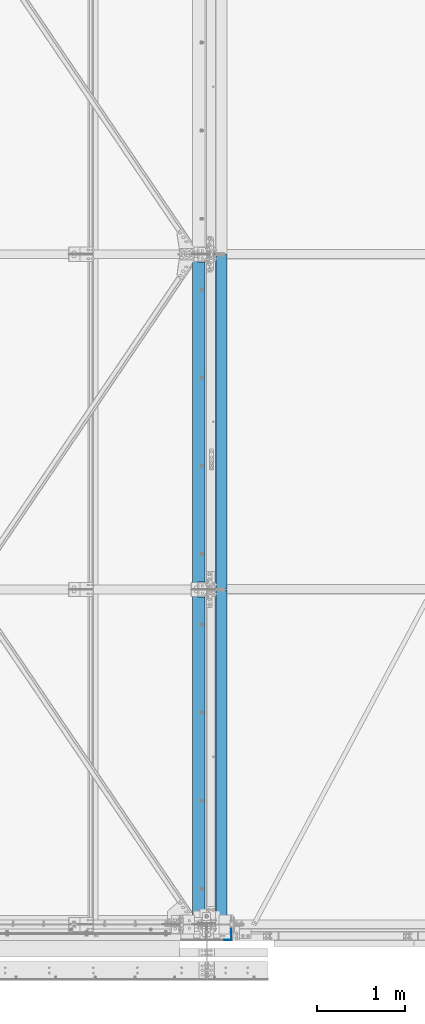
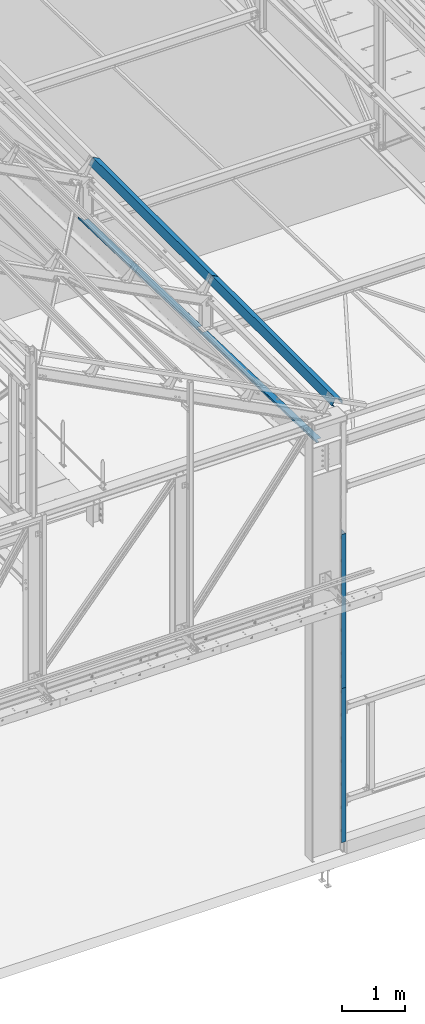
# One storey, part 347 of 362: 6 beams, 6 elements without a shape of their own.
"""IFC2X3 building model written with IfcOpenShell, lengths in millimetres."""

from ifc_helpers import new_model, si_unit, frame, origin_with_axes, place, context, subcontext, project, spatial, faceted_brep, material, type_object, element, aggregate, save


model = new_model("IFC2X3")

# Units and contexts
model_context = context("Model", 3, precision=1e-05, world=origin_with_axes())
body_context = subcontext(model_context, "Body", "Model", "MODEL_VIEW")
ifc_project = project(units=[si_unit("LENGTHUNIT", "METRE", prefix="MILLI"), si_unit("AREAUNIT", "SQUARE_METRE"), si_unit("VOLUMEUNIT", "CUBIC_METRE"), si_unit("MASSUNIT", "GRAM", prefix="KILO"), si_unit("TIMEUNIT", "SECOND"), si_unit("PLANEANGLEUNIT", "RADIAN"), si_unit("SOLIDANGLEUNIT", "STERADIAN"), si_unit("THERMODYNAMICTEMPERATUREUNIT", "DEGREE_CELSIUS"), si_unit("LUMINOUSINTENSITYUNIT", "LUMEN")], contexts=[model_context])

# Site, building, storey
site_placement = place(None, origin_with_axes())
site = spatial("IfcSite", under=ifc_project, at=site_placement, Name="Undefined", CompositionType="ELEMENT")
building_placement = place(site_placement, origin_with_axes())
building = spatial("IfcBuilding", under=site, at=building_placement, Name="Undefined", CompositionType="ELEMENT")
storey_placement = place(building_placement, origin_with_axes())
storey = spatial("IfcBuildingStorey", under=building, at=storey_placement, Name="Undefined", CompositionType="ELEMENT", Elevation=0.0)

# Assembly, beam
assembly_1_placement = place(storey_placement, origin_with_axes())
assembly_1 = element("IfcElementAssembly", 1, at=assembly_1_placement, inside=storey, Name="PANNE SHED", AssemblyPlace="NOTDEFINED", PredefinedType="NOTDEFINED")
ifc_material = material(Name="Undefined/S235-E24")
beam_type_1 = type_object("IfcBeamType", Name="PL3*3790", PredefinedType="NOTDEFINED")
beam_1_placement = place(assembly_1_placement, frame((28966.3687317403, 5700.00024422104, 8772.7482869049), z_axis=(0.0, 1.0, 0.0), x_axis=(-0.887870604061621, -1.29999898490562e-08, 0.460093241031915)))
beam_1 = element("IfcBeam", 2, at=beam_1_placement, type_object=beam_type_1, material=ifc_material, Name="PANNE SHED", ObjectType="PL3*3790", context=body_context, shape_type="Brep", body=[
    faceted_brep([(-3.49427864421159e-08, -1.49999999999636, -1895.0), (-3.52956703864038e-08, -1.5, 1895.0), (3.49573383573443e-08, 1.5, 1895.0), (3.53102223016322e-08, 1.5, -1895.0), (47.0000011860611, 1.49999889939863, 1895.0), (47.0000011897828, 1.49999889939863, -1895.0), (50.0000011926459, -1.50000117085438, -1895.0), (50.0000011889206, -1.50000117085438, 1895.0), (47.0000010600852, 135.50000220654, 1895.00000000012), (47.0000010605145, 135.500002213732, -1894.99999999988), (50.000001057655, 138.500002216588, -1894.99999999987), (50.0000010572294, 138.500002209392, 1895.00000000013), (-88.1757271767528, 135.500002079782, 1895.00000000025), (-88.175727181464, 135.50000208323, -1894.99999999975), (-90.0000023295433, 138.500002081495, -1894.99999999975), (-90.0000023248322, 138.500002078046, 1895.00000000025), (-124.14385012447, 66.0900733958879, 1895.00000000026), (-124.143850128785, 66.0900733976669, -1894.99999999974), (-126.807461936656, 67.4703531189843, 1895.00000000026), (-126.807461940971, 67.4703531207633, -1894.99999999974)], [[[0, 1, 2, 3]], [[3, 2, 4, 5]], [[1, 0, 6, 7]], [[5, 4, 8, 9]], [[7, 6, 10, 11]], [[9, 8, 12, 13]], [[11, 10, 14, 15]], [[13, 12, 16, 17]], [[12, 8, 4, 2, 1, 7, 11, 15, 18, 16]], [[15, 14, 19, 18]], [[14, 10, 6, 0, 3, 5, 9, 13, 17, 19]], [[18, 19, 17, 16]]]),
])
aggregate(assembly_1, [beam_1])

assembly_2_placement = place(storey_placement, origin_with_axes())
assembly_2 = element("IfcElementAssembly", 3, at=assembly_2_placement, inside=storey, AssemblyPlace="NOTDEFINED", PredefinedType="NOTDEFINED")
beam_type_2 = type_object("IfcBeamType", Name="PL5*3000", PredefinedType="NOTDEFINED")
beam_2_placement = place(assembly_2_placement, frame((29080.9999677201, -177.499999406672, 4750.0000156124), z_axis=(0.0, 0.0, 1.0), x_axis=(1.0, 0.0, 0.0)))
beam_2 = element("IfcBeam", 4, at=beam_2_placement, type_object=beam_type_2, material=ifc_material, Name="FEUILLURE", ObjectType="PL5*3000", context=body_context, shape_type="Brep", body=[
    faceted_brep([(80.0000295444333, 127.500000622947, 79.99218047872), (75.0000295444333, 127.500000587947, 79.99218047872), (75.000029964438, 67.4999918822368, 79.99218047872), (80.000029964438, 67.4999919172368, 79.99218047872), (75.000029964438, 67.4999918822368, 149.99218047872), (80.000029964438, 67.4999919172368, 149.99218047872), (80.0000295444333, 127.499991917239, 149.99218047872), (75.0000295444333, 127.500000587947, 149.99218047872), (-1.04046193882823e-09, -2.5, -1500.0), (-1.04046193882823e-09, -2.5, 1500.0), (1.04409991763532e-09, 2.5, 1500.0), (1.04409991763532e-09, 2.5, -1500.0), (75.0000304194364, 2.49999996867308, 1500.0), (75.0000304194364, 2.49999996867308, -1500.0), (80.0000304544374, -2.50000003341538, -1500.0), (75.0000295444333, 127.500000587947, -1500.0), (80.0000295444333, 127.500000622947, -1500.0), (80.0000304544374, -2.50000003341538, 1500.0), (80.0000295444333, 127.500000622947, 1500.0), (75.0000295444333, 127.500000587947, 1500.0)], [[[0, 1, 2, 3]], [[3, 2, 4, 5]], [[6, 5, 4, 7]], [[8, 9, 10, 11]], [[11, 10, 12, 13]], [[14, 8, 11, 13, 15, 16]], [[9, 8, 14, 17]], [[12, 10, 9, 17, 18, 19]], [[19, 18, 6, 7]], [[2, 1, 15, 13, 12, 19, 7, 4]], [[16, 15, 1, 0]], [[18, 17, 14, 16, 0, 3, 5, 6]]]),
])
aggregate(assembly_2, [beam_2])

assembly_3_placement = place(storey_placement, origin_with_axes())
assembly_3 = element("IfcElementAssembly", 5, at=assembly_3_placement, inside=storey, AssemblyPlace="NOTDEFINED", PredefinedType="NOTDEFINED")
beam_3_placement = place(assembly_3_placement, frame((29080.9999686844, -177.499999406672, 1750.00001560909), z_axis=(0.0, 0.0, 1.0), x_axis=(1.0, 0.0, 0.0)))
beam_3 = element("IfcBeam", 6, at=beam_3_placement, type_object=beam_type_2, material=ifc_material, Name="FEUILLURE", ObjectType="PL5*3000", context=body_context, shape_type="Brep", body=[
    faceted_brep([(80.000029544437, 127.500000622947, -820.003917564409), (75.000029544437, 127.500000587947, -820.003917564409), (75.000029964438, 67.5000005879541, -820.003917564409), (80.0000299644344, 67.5000006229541, -820.003917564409), (75.000029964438, 67.5000005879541, -750.003917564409), (80.0000299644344, 67.5000006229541, -750.003917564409), (80.000029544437, 127.500000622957, -750.003917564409), (75.000029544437, 127.500000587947, -750.003917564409), (-1.04046193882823e-09, -2.5, -1500.0), (-1.04046193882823e-09, -2.5, 1500.0), (1.04409991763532e-09, 2.5, 1500.0), (1.04409991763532e-09, 2.5, -1500.0), (75.0000304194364, 2.49999996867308, 1500.0), (75.0000304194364, 2.49999996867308, -1500.0), (80.0000304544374, -2.50000003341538, -1500.0), (75.0000295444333, 127.500000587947, -1500.0), (80.0000295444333, 127.500000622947, -1500.0), (80.0000304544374, -2.50000003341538, 1500.0), (80.0000295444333, 127.500000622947, 1500.0), (75.0000295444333, 127.500000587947, 1500.0), (80.000029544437, 127.500000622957, 1049.99608243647), (75.000029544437, 127.500000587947, 1049.99608243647), (80.0000299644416, 67.5000006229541, 1049.99608243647), (75.0000299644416, 67.5000005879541, 1049.99608243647), (80.0000299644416, 67.5000006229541, 979.996082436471), (75.0000299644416, 67.5000005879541, 979.996082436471), (80.000029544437, 127.500000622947, 979.996082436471), (75.000029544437, 127.500000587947, 979.996082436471)], [[[0, 1, 2, 3]], [[3, 2, 4, 5]], [[6, 5, 4, 7]], [[8, 9, 10, 11]], [[11, 10, 12, 13]], [[14, 8, 11, 13, 15, 16]], [[9, 8, 14, 17]], [[12, 10, 9, 17, 18, 19]], [[19, 18, 20, 21]], [[20, 22, 23, 21]], [[24, 25, 23, 22]], [[26, 27, 25, 24]], [[27, 26, 6, 7]], [[2, 1, 15, 13, 12, 19, 21, 23, 25, 27, 7, 4]], [[16, 15, 1, 0]], [[26, 24, 22, 20, 18, 17, 14, 16, 0, 3, 5, 6]]]),
])
aggregate(assembly_3, [beam_3])

assembly_4_placement = place(storey_placement, origin_with_axes())
assembly_4 = element("IfcElementAssembly", 7, at=assembly_4_placement, inside=storey, Name="POUTRE", AssemblyPlace="NOTDEFINED", PredefinedType="NOTDEFINED")
beam_type_3 = type_object("IfcBeamType", Name="PL2*4000", PredefinedType="NOTDEFINED")
beam_4_placement = place(assembly_4_placement, frame((28859.9999999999, 1899.71695010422, 7991.29997216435), z_axis=(3.14103090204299e-11, 0.999506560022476, -0.0314107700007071), x_axis=(-1.0, 0.0, 0.0)))
beam_4 = element("IfcBeam", 8, at=beam_4_placement, type_object=beam_type_3, material=ifc_material, Name="POUTRE", ObjectType="PL2*4000", context=body_context, shape_type="Brep", body=[
    faceted_brep([(84.9999999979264, 0.999999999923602, 1895.93800542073), (84.9999999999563, 0.999999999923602, 1815.93800543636), (84.9999999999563, -1.00000000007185, 1815.93800543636), (84.9999999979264, -1.00000000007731, 1895.93800542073), (7.27595761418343e-12, 1.00000000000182, 1815.93800543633), (0.0, -0.999999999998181, 1815.93800543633), (137.999999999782, 39.0000003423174, -1895.93800544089), (137.999999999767, 0.999999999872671, -1895.9380054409), (137.999999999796, 0.999999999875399, 1895.93800542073), (137.999999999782, 39.0000003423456, 1895.93800542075), (139.999999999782, 39.0000003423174, -1895.93800544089), (139.999999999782, 39.0000003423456, 1895.93800542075), (139.999999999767, -1.00000000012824, -1895.93800544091), (139.999999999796, -1.00000000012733, 1895.93800542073), (85.0000000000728, -1.00000000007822, -1895.93800544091), (85.0000000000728, 0.999999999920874, -1895.9380054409), (85.0000000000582, -1.00000000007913, -1815.93800540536), (85.0000000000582, 0.999999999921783, -1815.93800540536), (0.0, 1.0, -1815.93800540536), (-7.27595761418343e-12, -1.00000000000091, -1815.93800540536)], [[[0, 1, 2, 3]], [[4, 5, 2, 1]], [[6, 7, 8, 9]], [[10, 6, 9, 11]], [[12, 10, 11, 13]], [[7, 6, 10, 12, 14, 15]], [[15, 14, 16, 17]], [[18, 17, 16, 19]], [[0, 8, 7, 15, 17, 18, 4, 1]], [[13, 11, 9, 8, 0, 3]], [[19, 16, 14, 12, 13, 3, 2, 5]], [[18, 19, 5, 4]]]),
])
aggregate(assembly_4, [beam_4])

assembly_5_placement = place(storey_placement, origin_with_axes())
assembly_5 = element("IfcElementAssembly", 9, at=assembly_5_placement, inside=storey, Name="POUTRE", AssemblyPlace="NOTDEFINED", PredefinedType="NOTDEFINED")
beam_5_placement = place(assembly_5_placement, frame((28859.9999999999, 5699.71696464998, 7871.88016099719), z_axis=(3.14103090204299e-11, 0.999506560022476, -0.0314107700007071), x_axis=(-1.0, 0.0, 0.0)))
beam_5 = element("IfcBeam", 10, at=beam_5_placement, type_object=beam_type_3, material=ifc_material, Name="POUTRE", ObjectType="PL2*4000", context=body_context, shape_type="Brep", body=[
    faceted_brep([(84.9999999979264, 0.999999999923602, 1895.93800542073), (84.9999999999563, 0.999999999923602, 1815.93800543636), (84.9999999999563, -1.00000000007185, 1815.93800543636), (84.9999999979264, -1.00000000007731, 1895.93800542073), (7.27595761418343e-12, 1.00000000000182, 1815.93800543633), (0.0, -0.999999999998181, 1815.93800543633), (137.999999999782, 39.0000003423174, -1895.93800544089), (137.999999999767, 0.999999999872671, -1895.9380054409), (137.999999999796, 0.999999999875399, 1895.93800542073), (137.999999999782, 39.0000003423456, 1895.93800542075), (139.999999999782, 39.0000003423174, -1895.93800544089), (139.999999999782, 39.0000003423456, 1895.93800542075), (139.999999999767, -1.00000000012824, -1895.93800544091), (139.999999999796, -1.00000000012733, 1895.93800542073), (85.0000000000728, -1.00000000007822, -1895.93800544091), (85.0000000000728, 0.999999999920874, -1895.9380054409), (85.0000000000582, -1.00000000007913, -1815.93800540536), (85.0000000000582, 0.999999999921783, -1815.93800540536), (0.0, 1.0, -1815.93800540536), (-7.27595761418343e-12, -1.00000000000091, -1815.93800540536)], [[[0, 1, 2, 3]], [[4, 5, 2, 1]], [[6, 7, 8, 9]], [[10, 6, 9, 11]], [[12, 10, 11, 13]], [[7, 6, 10, 12, 14, 15]], [[15, 14, 16, 17]], [[18, 17, 16, 19]], [[0, 8, 7, 15, 17, 18, 4, 1]], [[13, 11, 9, 8, 0, 3]], [[19, 16, 14, 12, 13, 3, 2, 5]], [[18, 19, 5, 4]]]),
])
aggregate(assembly_5, [beam_5])

assembly_6_placement = place(storey_placement, origin_with_axes())
assembly_6 = element("IfcElementAssembly", 11, at=assembly_6_placement, inside=storey, Name="PANNE SHED", AssemblyPlace="NOTDEFINED", PredefinedType="NOTDEFINED")
beam_type_4 = type_object("IfcBeamType", Name="PL3*3950", PredefinedType="NOTDEFINED")
beam_6_placement = place(assembly_6_placement, frame((28966.3687317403, 1820.00024422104, 8772.74828690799), z_axis=(0.0, 1.0, 0.0), x_axis=(-0.887870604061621, -1.29999898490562e-08, 0.460093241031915)))
beam_6 = element("IfcBeam", 12, at=beam_6_placement, type_object=beam_type_4, material=ifc_material, Name="PANNE SHED", ObjectType="PL3*3950", context=body_context, shape_type="Brep", body=[
    faceted_brep([(-4.57112037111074e-09, -1.5, -1975.0), (-2.82489054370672e-09, -1.49999999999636, 1975.0), (4.56748239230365e-09, 1.50000000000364, 1975.0), (2.82125256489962e-09, 1.5, -1975.0), (46.9999982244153, 1.49999988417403, 1974.99999999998), (46.9999982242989, 1.49999988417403, -1975.00000000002), (49.9999982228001, -1.50000012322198, -1975.00000000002), (49.9999982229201, -1.50000012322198, 1974.99999999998), (46.999998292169, 135.499998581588, 1975.00000000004), (46.9999982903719, 135.499998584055, -1974.99999999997), (49.9999982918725, 138.499998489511, -1974.99999999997), (49.9999982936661, 138.499998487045, 1975.00000000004), (-88.1757271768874, 135.50000208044, 1975.00000000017), (-88.1757271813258, 135.500002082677, -1974.99999999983), (-90.0000045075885, 138.50000290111, -1974.99999999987), (-90.0000045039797, 138.500002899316, 1975.00000000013), (-124.143850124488, 66.0900733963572, 1975.0000000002), (-124.143850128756, 66.0900733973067, -1974.9999999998), (-126.807461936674, 67.4703531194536, 1975.0000000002), (-126.807461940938, 67.4703531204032, -1974.9999999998)], [[[0, 1, 2, 3]], [[3, 2, 4, 5]], [[1, 0, 6, 7]], [[5, 4, 8, 9]], [[7, 6, 10, 11]], [[9, 8, 12, 13]], [[11, 10, 14, 15]], [[13, 12, 16, 17]], [[12, 8, 4, 2, 1, 7, 11, 15, 18, 16]], [[15, 14, 19, 18]], [[14, 10, 6, 0, 3, 5, 9, 13, 17, 19]], [[18, 19, 17, 16]]]),
])
aggregate(assembly_6, [beam_6])

save(model, "model.ifc")
